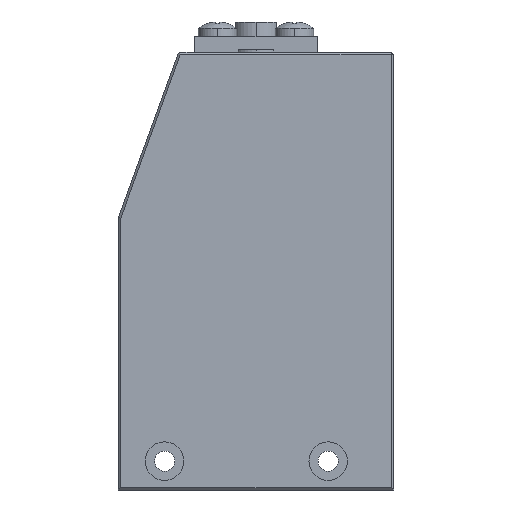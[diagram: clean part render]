
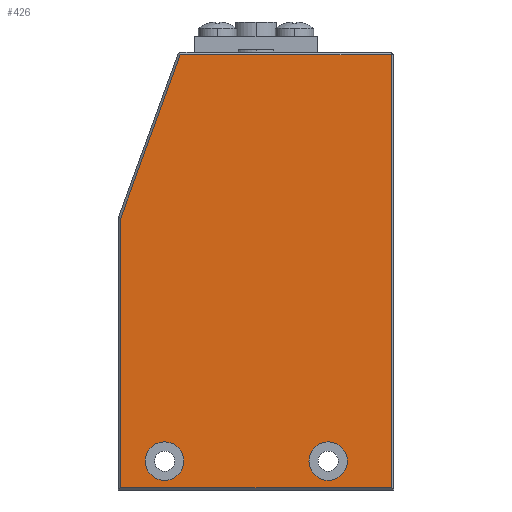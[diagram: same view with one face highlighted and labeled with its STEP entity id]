
A CAD part, left-side view. The second image highlights one B-rep face of the part: STEP entity #426.
In plain terms, the highlighted planar face has unit normal (-1, 0, 0).
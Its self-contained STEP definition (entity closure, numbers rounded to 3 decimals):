
#123 = LINE ( 'NONE', #7499, #1902 ) ;
#426 = ADVANCED_FACE ( 'NONE', ( #10246, #8223, #7685 ), #4176, .F. ) ;
#571 = VERTEX_POINT ( 'NONE', #1066 ) ;
#763 = AXIS2_PLACEMENT_3D ( 'NONE', #1114, #2766, #10488 ) ;
#822 = EDGE_CURVE ( 'NONE', #6642, #1437, #8898, .T. ) ;
#880 = EDGE_LOOP ( 'NONE', ( #3278, #10957 ) ) ;
#901 = DIRECTION ( 'NONE',  ( 0., 0., -1. ) ) ;
#953 = EDGE_CURVE ( 'NONE', #5664, #2145, #123, .T. ) ;
#1041 = LINE ( 'NONE', #8036, #3063 ) ;
#1066 = CARTESIAN_POINT ( 'NONE',  ( -44.223, 14.624, 136. ) ) ;
#1114 = CARTESIAN_POINT ( 'NONE',  ( -44.223, 17.894, 51.5 ) ) ;
#1203 = LINE ( 'NONE', #4184, #2275 ) ;
#1437 = VERTEX_POINT ( 'NONE', #8844 ) ;
#1581 = DIRECTION ( 'NONE',  ( 0., 0.342, -0.94 ) ) ;
#1852 = CARTESIAN_POINT ( 'NONE',  ( -44.223, -12.106, 51.5 ) ) ;
#1902 = VECTOR ( 'NONE', #6681, 1000. ) ;
#1934 = DIRECTION ( 'NONE',  ( 0., -1., 0. ) ) ;
#2014 = VECTOR ( 'NONE', #901, 1000. ) ;
#2125 = LINE ( 'NONE', #6750, #8421 ) ;
#2145 = VERTEX_POINT ( 'NONE', #9344 ) ;
#2275 = VECTOR ( 'NONE', #1581, 1000. ) ;
#2337 = EDGE_CURVE ( 'NONE', #3615, #8167, #6330, .T. ) ;
#2696 = EDGE_CURVE ( 'NONE', #571, #3615, #1203, .T. ) ;
#2766 = DIRECTION ( 'NONE',  ( -1., 0., 0. ) ) ;
#2778 = EDGE_LOOP ( 'NONE', ( #8009, #10442 ) ) ;
#2890 = EDGE_LOOP ( 'NONE', ( #7289, #10663, #5890, #7609, #9050 ) ) ;
#3063 = VECTOR ( 'NONE', #7952, 1000. ) ;
#3131 = VERTEX_POINT ( 'NONE', #7138 ) ;
#3278 = ORIENTED_EDGE ( 'NONE', *, *, #822, .F. ) ;
#3490 = EDGE_CURVE ( 'NONE', #1437, #6642, #10314, .T. ) ;
#3615 = VERTEX_POINT ( 'NONE', #5050 ) ;
#3679 = AXIS2_PLACEMENT_3D ( 'NONE', #5665, #9992, #6623 ) ;
#3944 = CARTESIAN_POINT ( 'NONE',  ( -44.223, 13.894, 51.5 ) ) ;
#3945 = CARTESIAN_POINT ( 'NONE',  ( -44.223, 26.994, 46. ) ) ;
#4097 = AXIS2_PLACEMENT_3D ( 'NONE', #9351, #5047, #8694 ) ;
#4176 = PLANE ( 'NONE',  #4097 ) ;
#4184 = CARTESIAN_POINT ( 'NONE',  ( -44.223, 15.968, 132.305 ) ) ;
#4347 = CARTESIAN_POINT ( 'NONE',  ( -44.223, 26.994, 136.5 ) ) ;
#4784 = EDGE_CURVE ( 'NONE', #9584, #3131, #7482, .T. ) ;
#5047 = DIRECTION ( 'NONE',  ( 1., 0., 0. ) ) ;
#5050 = CARTESIAN_POINT ( 'NONE',  ( -44.223, 26.994, 102.012 ) ) ;
#5201 = AXIS2_PLACEMENT_3D ( 'NONE', #7658, #9580, #1934 ) ;
#5664 = VERTEX_POINT ( 'NONE', #8240 ) ;
#5665 = CARTESIAN_POINT ( 'NONE',  ( -44.223, -16.106, 51.5 ) ) ;
#5805 = AXIS2_PLACEMENT_3D ( 'NONE', #8783, #8706, #9657 ) ;
#5890 = ORIENTED_EDGE ( 'NONE', *, *, #953, .T. ) ;
#6330 = LINE ( 'NONE', #4347, #2014 ) ;
#6623 = DIRECTION ( 'NONE',  ( 0., -1., 0. ) ) ;
#6642 = VERTEX_POINT ( 'NONE', #3944 ) ;
#6681 = DIRECTION ( 'NONE',  ( 0., 0., 1. ) ) ;
#6750 = CARTESIAN_POINT ( 'NONE',  ( -44.223, 27.494, 46. ) ) ;
#7138 = CARTESIAN_POINT ( 'NONE',  ( -44.223, -20.106, 51.5 ) ) ;
#7289 = ORIENTED_EDGE ( 'NONE', *, *, #2337, .T. ) ;
#7482 = CIRCLE ( 'NONE', #5805, 4. ) ;
#7499 = CARTESIAN_POINT ( 'NONE',  ( -44.223, -29.206, 136.5 ) ) ;
#7609 = ORIENTED_EDGE ( 'NONE', *, *, #10245, .T. ) ;
#7658 = CARTESIAN_POINT ( 'NONE',  ( -44.223, 17.894, 51.5 ) ) ;
#7685 = FACE_BOUND ( 'NONE', #880, .T. ) ;
#7952 = DIRECTION ( 'NONE',  ( 0., 1., 0. ) ) ;
#8009 = ORIENTED_EDGE ( 'NONE', *, *, #9854, .F. ) ;
#8036 = CARTESIAN_POINT ( 'NONE',  ( -44.223, 14.974, 136. ) ) ;
#8167 = VERTEX_POINT ( 'NONE', #3945 ) ;
#8223 = FACE_BOUND ( 'NONE', #2778, .T. ) ;
#8240 = CARTESIAN_POINT ( 'NONE',  ( -44.223, -29.206, 46. ) ) ;
#8421 = VECTOR ( 'NONE', #8610, 1000. ) ;
#8610 = DIRECTION ( 'NONE',  ( 0., -1., 0. ) ) ;
#8694 = DIRECTION ( 'NONE',  ( 0., 1., 0. ) ) ;
#8706 = DIRECTION ( 'NONE',  ( -1., 0., 0. ) ) ;
#8783 = CARTESIAN_POINT ( 'NONE',  ( -44.223, -16.106, 51.5 ) ) ;
#8844 = CARTESIAN_POINT ( 'NONE',  ( -44.223, 21.894, 51.5 ) ) ;
#8898 = CIRCLE ( 'NONE', #763, 4. ) ;
#9050 = ORIENTED_EDGE ( 'NONE', *, *, #2696, .T. ) ;
#9344 = CARTESIAN_POINT ( 'NONE',  ( -44.223, -29.206, 136. ) ) ;
#9351 = CARTESIAN_POINT ( 'NONE',  ( -44.223, 27.494, 136.5 ) ) ;
#9580 = DIRECTION ( 'NONE',  ( -1., 0., 0. ) ) ;
#9584 = VERTEX_POINT ( 'NONE', #1852 ) ;
#9657 = DIRECTION ( 'NONE',  ( 0., -1., 0. ) ) ;
#9854 = EDGE_CURVE ( 'NONE', #3131, #9584, #10458, .T. ) ;
#9992 = DIRECTION ( 'NONE',  ( -1., 0., 0. ) ) ;
#10245 = EDGE_CURVE ( 'NONE', #2145, #571, #1041, .T. ) ;
#10246 = FACE_OUTER_BOUND ( 'NONE', #2890, .T. ) ;
#10314 = CIRCLE ( 'NONE', #5201, 4. ) ;
#10442 = ORIENTED_EDGE ( 'NONE', *, *, #4784, .F. ) ;
#10458 = CIRCLE ( 'NONE', #3679, 4. ) ;
#10488 = DIRECTION ( 'NONE',  ( 0., -1., 0. ) ) ;
#10663 = ORIENTED_EDGE ( 'NONE', *, *, #10669, .T. ) ;
#10669 = EDGE_CURVE ( 'NONE', #8167, #5664, #2125, .T. ) ;
#10957 = ORIENTED_EDGE ( 'NONE', *, *, #3490, .F. ) ;
